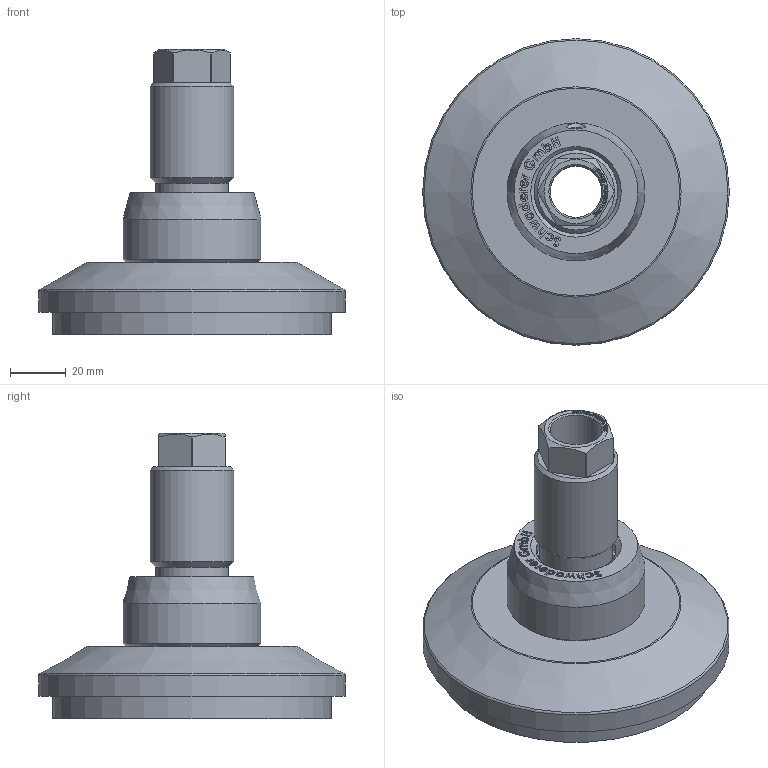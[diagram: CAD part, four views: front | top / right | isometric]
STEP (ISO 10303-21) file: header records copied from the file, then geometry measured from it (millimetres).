
FILE_DESCRIPTION(/* description */ ('JCM 100C - M30 - S6'),/* implementation_level */ '2;1');
FILE_NAME(/* name */ 'P:\CAD ab 2015\STP - Internetseite\JCMHD\JCMHD 100C - S12 - HSD70.stp',/* time_stamp */ '2021-10-01T09:19:49+02:00',/* author */ ('torsten'),/* organization */ ('Schwaderer GmbH Robert-Bosch-Str. 10 71563 Affalterbach'),/* preprocessor_version */ 'ST-DEVELOPER v18.1',/* originating_system */ 'Autodesk Inventor LT',/* authorisation */ '');
FILE_SCHEMA (('CONFIG_CONTROL_DESIGN'));
Length unit declared in the file: millimetre
Products named in the file (1): JCMHD 100C - S6 - HSD110
Bounding box: 110 x 110 x 102.4 mm (x, y, z)
Volume: 249627 mm3; surface area: 64545.4 mm2
Topology: 4 solids, 4 shells, 479 faces, 1302 edges, 871 vertices
Faces by surface type: plane 243, bspline 192, cylinder 23, cone 17, torus 3, sphere 1
Full cylindrical faces by diameter (mm): 5 x1, 18.5 x2, 25 x1, 26 x1, 26.5 x1, 27.5 x1, 28.5 x2, 30 x2, 31 x1, 49.5 x1, 100 x2, 110 x1
Entity records: 16618 total; most frequent: CARTESIAN_POINT 5625, ORIENTED_EDGE 2604, DIRECTION 1597, EDGE_CURVE 1302, VERTEX_POINT 871, LINE 781, VECTOR 781, EDGE_LOOP 529
